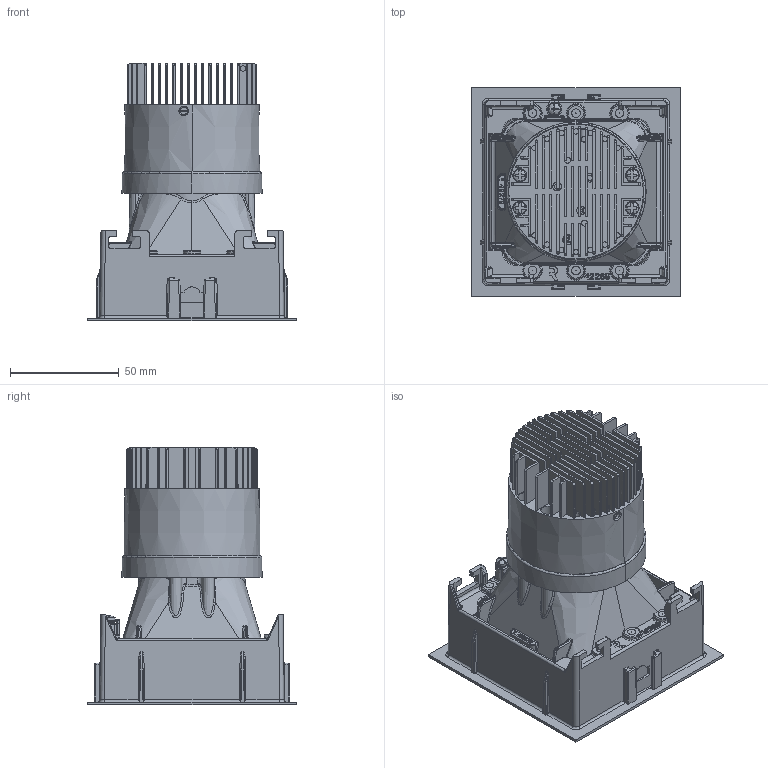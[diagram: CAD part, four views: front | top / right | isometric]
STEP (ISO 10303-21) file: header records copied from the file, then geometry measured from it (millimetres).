
FILE_DESCRIPTION(('CATIA V5 STEP Exchange'),'2;1');
FILE_NAME('C:\Users\stefano.giovinetto\Desktop\X.DP1C - M PRO Fix Square Trim.stp','2020-10-29T14:39:06+00:00',('none'),('none'),'CATIA Version 5 Release 20 SP 7 (IN-10)','CATIA V5 STEP AP203','none');
FILE_SCHEMA(('CONFIG_CONTROL_DESIGN'));
Length unit declared in the file: millimetre
Products named in the file (1): X.DP1CK
Bounding box: 96 x 96 x 118.82 mm (x, y, z)
Volume: 142347.4 mm3; surface area: 147719.3 mm2
Topology: 32 solids, 54 shells, 4984 faces, 13932 edges, 8930 vertices
Faces by surface type: plane 3023, cylinder 1013, bspline 410, cone 251, sphere 142, torus 131, extrusion 10, revolution 4
Entity records: 211967 total; most frequent: CARTESIAN_POINT 92739, ORIENTED_EDGE 27249, DIRECTION 19790, EDGE_CURVE 13744, VECTOR 9086, LINE 9076, VERTEX_POINT 8928, AXIS2_PLACEMENT_3D 6099
